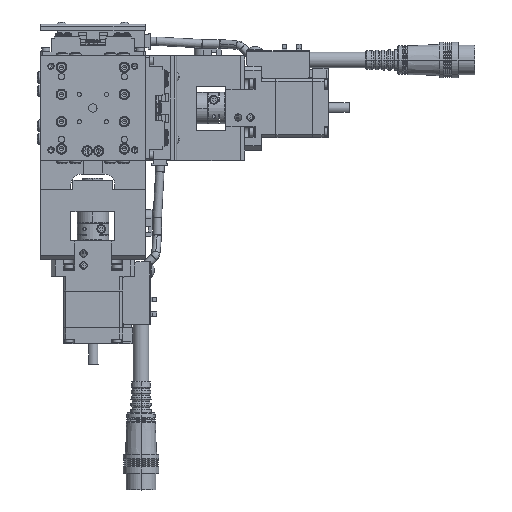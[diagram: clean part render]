
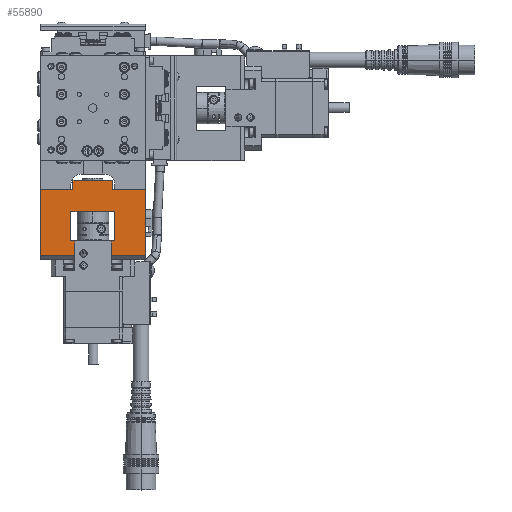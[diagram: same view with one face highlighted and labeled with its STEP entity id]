
A CAD part, top view. The second image highlights one B-rep face of the part: STEP entity #55890.
In plain terms, the highlighted planar face has unit normal (0, 0, 1).
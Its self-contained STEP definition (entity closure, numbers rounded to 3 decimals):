
#1556 = CARTESIAN_POINT ( 'NONE',  ( 1.387, 102.331, 39. ) ) ;
#2351 = DIRECTION ( 'NONE',  ( 0., 1., 0. ) ) ;
#2958 = ORIENTED_EDGE ( 'NONE', *, *, #108094, .F. ) ;
#3212 = VECTOR ( 'NONE', #29409, 1000. ) ;
#4624 = EDGE_CURVE ( 'NONE', #75297, #28807, #62035, .T. ) ;
#5101 = EDGE_CURVE ( 'NONE', #100122, #56367, #71317, .T. ) ;
#5253 = ORIENTED_EDGE ( 'NONE', *, *, #18223, .F. ) ;
#5948 = VERTEX_POINT ( 'NONE', #40525 ) ;
#6115 = VERTEX_POINT ( 'NONE', #64753 ) ;
#7367 = DIRECTION ( 'NONE',  ( -1., 0., 0. ) ) ;
#8648 = CARTESIAN_POINT ( 'NONE',  ( -32.363, 67.831, 39. ) ) ;
#9414 = DIRECTION ( 'NONE',  ( -1., 0., 0. ) ) ;
#9542 = LINE ( 'NONE', #20582, #3212 ) ;
#11441 = VERTEX_POINT ( 'NONE', #81091 ) ;
#14102 = EDGE_CURVE ( 'NONE', #65430, #56367, #43911, .T. ) ;
#14430 = DIRECTION ( 'NONE',  ( 1., 0., 0. ) ) ;
#14617 = VECTOR ( 'NONE', #9414, 1000. ) ;
#16964 = DIRECTION ( 'NONE',  ( 0., 0., 1. ) ) ;
#17771 = DIRECTION ( 'NONE',  ( 1., 0., 0. ) ) ;
#17961 = DIRECTION ( 'NONE',  ( 1., 0., 0. ) ) ;
#18223 = EDGE_CURVE ( 'NONE', #6115, #5948, #82519, .T. ) ;
#18455 = VECTOR ( 'NONE', #42310, 1000. ) ;
#19273 = CARTESIAN_POINT ( 'NONE',  ( -25.363, 101.531, 39. ) ) ;
#20099 = EDGE_CURVE ( 'NONE', #11441, #61283, #112147, .T. ) ;
#20582 = CARTESIAN_POINT ( 'NONE',  ( -0.863, 111.581, 39. ) ) ;
#22272 = ORIENTED_EDGE ( 'NONE', *, *, #84105, .T. ) ;
#23378 = CARTESIAN_POINT ( 'NONE',  ( -25.363, 67.831, 39. ) ) ;
#25284 = CARTESIAN_POINT ( 'NONE',  ( -29.863, 84.131, 39. ) ) ;
#28807 = VERTEX_POINT ( 'NONE', #83479 ) ;
#29409 = DIRECTION ( 'NONE',  ( 0., 1., 0. ) ) ;
#30090 = VERTEX_POINT ( 'NONE', #48529 ) ;
#33989 = LINE ( 'NONE', #107557, #89234 ) ;
#34248 = LINE ( 'NONE', #23378, #18455 ) ;
#35361 = ORIENTED_EDGE ( 'NONE', *, *, #96974, .F. ) ;
#37656 = CARTESIAN_POINT ( 'NONE',  ( -25.363, 117.831, 39. ) ) ;
#37706 = AXIS2_PLACEMENT_3D ( 'NONE', #37656, #16964, #98170 ) ;
#37769 = CARTESIAN_POINT ( 'NONE',  ( -29.863, 101.531, 39. ) ) ;
#39656 = EDGE_LOOP ( 'NONE', ( #80581, #67052, #126293, #87079, #113016, #107648, #79107, #114959, #2958, #47808, #57825, #22272, #5253, #35361, #51581, #78050 ) ) ;
#40525 = CARTESIAN_POINT ( 'NONE',  ( -0.863, 83.331, 39. ) ) ;
#41302 = LINE ( 'NONE', #82724, #118767 ) ;
#42101 = CARTESIAN_POINT ( 'NONE',  ( -25.363, 84.131, 39. ) ) ;
#42310 = DIRECTION ( 'NONE',  ( 0., 1., 0. ) ) ;
#43035 = VECTOR ( 'NONE', #7367, 1000. ) ;
#43911 = LINE ( 'NONE', #44838, #104023 ) ;
#44838 = CARTESIAN_POINT ( 'NONE',  ( -25.363, 82.331, 39. ) ) ;
#45541 = DIRECTION ( 'NONE',  ( 1., 0., 0. ) ) ;
#46737 = CARTESIAN_POINT ( 'NONE',  ( -32.363, 84.131, 39. ) ) ;
#47122 = VECTOR ( 'NONE', #82658, 1000. ) ;
#47808 = ORIENTED_EDGE ( 'NONE', *, *, #119972, .T. ) ;
#48227 = CARTESIAN_POINT ( 'NONE',  ( 1.387, 83.331, 39. ) ) ;
#48529 = CARTESIAN_POINT ( 'NONE',  ( -0.863, 67.831, 39. ) ) ;
#48833 = CARTESIAN_POINT ( 'NONE',  ( -25.363, 82.331, 39. ) ) ;
#49106 = EDGE_CURVE ( 'NONE', #75297, #95015, #94683, .T. ) ;
#51581 = ORIENTED_EDGE ( 'NONE', *, *, #83765, .F. ) ;
#53058 = CARTESIAN_POINT ( 'NONE',  ( -25.363, 103.331, 39. ) ) ;
#55890 = ADVANCED_FACE ( 'NONE', ( #90018 ), #87999, .T. ) ;
#56367 = VERTEX_POINT ( 'NONE', #127199 ) ;
#57825 = ORIENTED_EDGE ( 'NONE', *, *, #119796, .T. ) ;
#60274 = VECTOR ( 'NONE', #78713, 1000. ) ;
#60641 = VECTOR ( 'NONE', #69247, 1000. ) ;
#61283 = VERTEX_POINT ( 'NONE', #131021 ) ;
#62035 = LINE ( 'NONE', #37769, #43035 ) ;
#64753 = CARTESIAN_POINT ( 'NONE',  ( 3.637, 83.331, 39. ) ) ;
#65430 = VERTEX_POINT ( 'NONE', #48833 ) ;
#67052 = ORIENTED_EDGE ( 'NONE', *, *, #76606, .T. ) ;
#67311 = EDGE_CURVE ( 'NONE', #121037, #61283, #9542, .T. ) ;
#67801 = CARTESIAN_POINT ( 'NONE',  ( 3.637, 102.331, 39. ) ) ;
#67820 = VECTOR ( 'NONE', #17771, 1000. ) ;
#69247 = DIRECTION ( 'NONE',  ( 0., -1., 0. ) ) ;
#70877 = LINE ( 'NONE', #74202, #47122 ) ;
#71317 = LINE ( 'NONE', #108354, #60274 ) ;
#71699 = LINE ( 'NONE', #91301, #60641 ) ;
#71787 = VERTEX_POINT ( 'NONE', #42101 ) ;
#74135 = LINE ( 'NONE', #128625, #67820 ) ;
#74202 = CARTESIAN_POINT ( 'NONE',  ( -32.363, 67.831, 39. ) ) ;
#75297 = VERTEX_POINT ( 'NONE', #19273 ) ;
#76606 = EDGE_CURVE ( 'NONE', #11441, #28807, #71699, .T. ) ;
#77118 = CARTESIAN_POINT ( 'NONE',  ( -25.363, 117.831, 39. ) ) ;
#78050 = ORIENTED_EDGE ( 'NONE', *, *, #67311, .T. ) ;
#78713 = DIRECTION ( 'NONE',  ( 0., -1., 0. ) ) ;
#79107 = ORIENTED_EDGE ( 'NONE', *, *, #14102, .F. ) ;
#80528 = VECTOR ( 'NONE', #17961, 1000. ) ;
#80581 = ORIENTED_EDGE ( 'NONE', *, *, #20099, .F. ) ;
#81091 = CARTESIAN_POINT ( 'NONE',  ( -32.363, 117.831, 39. ) ) ;
#82519 = LINE ( 'NONE', #48227, #14617 ) ;
#82658 = DIRECTION ( 'NONE',  ( 0., -1., 0. ) ) ;
#82724 = CARTESIAN_POINT ( 'NONE',  ( 3.637, 92.831, 39. ) ) ;
#83479 = CARTESIAN_POINT ( 'NONE',  ( -32.363, 101.531, 39. ) ) ;
#83765 = EDGE_CURVE ( 'NONE', #121037, #112184, #121079, .T. ) ;
#84105 = EDGE_CURVE ( 'NONE', #30090, #5948, #106619, .T. ) ;
#87079 = ORIENTED_EDGE ( 'NONE', *, *, #49106, .T. ) ;
#87957 = VERTEX_POINT ( 'NONE', #46737 ) ;
#87999 = PLANE ( 'NONE',  #37706 ) ;
#88467 = VERTEX_POINT ( 'NONE', #8648 ) ;
#89231 = VECTOR ( 'NONE', #118848, 1000. ) ;
#89234 = VECTOR ( 'NONE', #128316, 1000. ) ;
#90018 = FACE_OUTER_BOUND ( 'NONE', #39656, .T. ) ;
#91301 = CARTESIAN_POINT ( 'NONE',  ( -32.363, 101.531, 39. ) ) ;
#91515 = VECTOR ( 'NONE', #2351, 1000. ) ;
#94683 = LINE ( 'NONE', #112300, #91515 ) ;
#95015 = VERTEX_POINT ( 'NONE', #53058 ) ;
#96974 = EDGE_CURVE ( 'NONE', #112184, #6115, #41302, .T. ) ;
#97342 = VECTOR ( 'NONE', #102621, 1000. ) ;
#98170 = DIRECTION ( 'NONE',  ( 1., 0., 0. ) ) ;
#100122 = VERTEX_POINT ( 'NONE', #123172 ) ;
#101482 = EDGE_CURVE ( 'NONE', #95015, #100122, #33989, .T. ) ;
#102621 = DIRECTION ( 'NONE',  ( 1., 0., 0. ) ) ;
#104023 = VECTOR ( 'NONE', #14430, 1000. ) ;
#104506 = VECTOR ( 'NONE', #45541, 1000. ) ;
#106619 = LINE ( 'NONE', #118434, #89231 ) ;
#107557 = CARTESIAN_POINT ( 'NONE',  ( -25.363, 103.331, 39. ) ) ;
#107648 = ORIENTED_EDGE ( 'NONE', *, *, #5101, .T. ) ;
#108094 = EDGE_CURVE ( 'NONE', #87957, #71787, #120233, .T. ) ;
#108354 = CARTESIAN_POINT ( 'NONE',  ( -11.363, 111.581, 39. ) ) ;
#112147 = LINE ( 'NONE', #77118, #80528 ) ;
#112184 = VERTEX_POINT ( 'NONE', #67801 ) ;
#112300 = CARTESIAN_POINT ( 'NONE',  ( -25.363, 101.531, 39. ) ) ;
#112778 = DIRECTION ( 'NONE',  ( 0., -1., 0. ) ) ;
#113016 = ORIENTED_EDGE ( 'NONE', *, *, #101482, .T. ) ;
#114959 = ORIENTED_EDGE ( 'NONE', *, *, #121148, .T. ) ;
#118434 = CARTESIAN_POINT ( 'NONE',  ( -0.863, 111.581, 39. ) ) ;
#118767 = VECTOR ( 'NONE', #112778, 1000. ) ;
#118848 = DIRECTION ( 'NONE',  ( 0., 1., 0. ) ) ;
#119796 = EDGE_CURVE ( 'NONE', #88467, #30090, #74135, .T. ) ;
#119972 = EDGE_CURVE ( 'NONE', #87957, #88467, #70877, .T. ) ;
#120233 = LINE ( 'NONE', #25284, #104506 ) ;
#121037 = VERTEX_POINT ( 'NONE', #121918 ) ;
#121079 = LINE ( 'NONE', #1556, #97342 ) ;
#121148 = EDGE_CURVE ( 'NONE', #65430, #71787, #34248, .T. ) ;
#121918 = CARTESIAN_POINT ( 'NONE',  ( -0.863, 102.331, 39. ) ) ;
#123172 = CARTESIAN_POINT ( 'NONE',  ( -11.363, 103.331, 39. ) ) ;
#126293 = ORIENTED_EDGE ( 'NONE', *, *, #4624, .F. ) ;
#127199 = CARTESIAN_POINT ( 'NONE',  ( -11.363, 82.331, 39. ) ) ;
#128316 = DIRECTION ( 'NONE',  ( 1., 0., 0. ) ) ;
#128625 = CARTESIAN_POINT ( 'NONE',  ( -25.363, 67.831, 39. ) ) ;
#131021 = CARTESIAN_POINT ( 'NONE',  ( -0.863, 117.831, 39. ) ) ;
